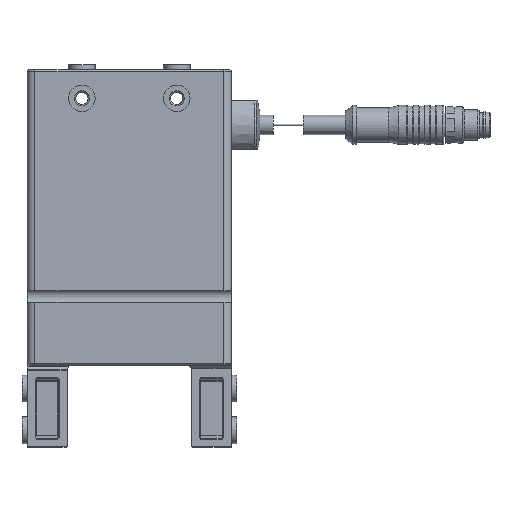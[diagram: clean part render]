
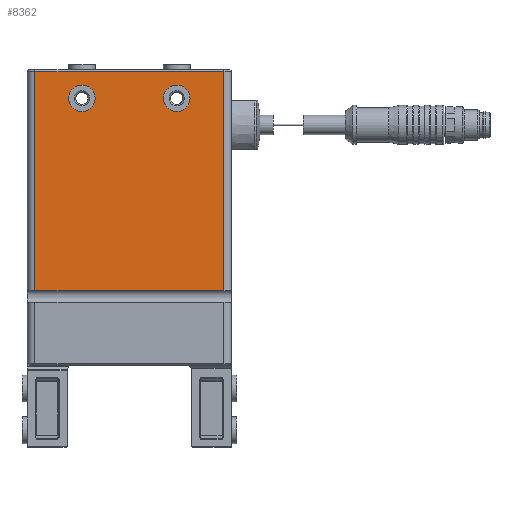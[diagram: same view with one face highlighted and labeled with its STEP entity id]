
A CAD part, top view. The second image highlights one B-rep face of the part: STEP entity #8362.
In plain terms, the highlighted planar face has unit normal (0, 0, 1) as drawn and (0, 0, -1) by its records, which use the part's own axes.
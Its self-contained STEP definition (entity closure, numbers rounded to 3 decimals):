
#1017=LINE('',#15135,#1821);
#1020=LINE('',#15158,#1824);
#1024=LINE('',#15188,#1828);
#1025=LINE('',#15189,#1829);
#1821=VECTOR('',#12450,1000.);
#1824=VECTOR('',#12469,1000.);
#1828=VECTOR('',#12489,1000.);
#1829=VECTOR('',#12490,1000.);
#3701=ORIENTED_EDGE('',*,*,#5139,.F.);
#3702=ORIENTED_EDGE('',*,*,#5140,.F.);
#3703=ORIENTED_EDGE('',*,*,#5141,.F.);
#3704=ORIENTED_EDGE('',*,*,#5129,.T.);
#3705=ORIENTED_EDGE('',*,*,#5142,.T.);
#3706=ORIENTED_EDGE('',*,*,#5119,.F.);
#5119=EDGE_CURVE('',#5973,#5974,#1017,.T.);
#5129=EDGE_CURVE('',#5982,#5981,#1020,.T.);
#5139=EDGE_CURVE('',#5990,#5990,#6254,.T.);
#5140=EDGE_CURVE('',#5991,#5991,#6255,.T.);
#5141=EDGE_CURVE('',#5982,#5973,#1024,.T.);
#5142=EDGE_CURVE('',#5981,#5974,#1025,.T.);
#5973=VERTEX_POINT('',#15134);
#5974=VERTEX_POINT('',#15136);
#5981=VERTEX_POINT('',#15157);
#5982=VERTEX_POINT('',#15159);
#5990=VERTEX_POINT('',#15185);
#5991=VERTEX_POINT('',#15187);
#6254=CIRCLE('',#10399,3.5);
#6255=CIRCLE('',#10400,3.5);
#6820=EDGE_LOOP('',(#3701));
#6821=EDGE_LOOP('',(#3702));
#6822=EDGE_LOOP('',(#3703,#3704,#3705,#3706));
#7479=FACE_BOUND('',#6820,.T.);
#7480=FACE_BOUND('',#6821,.T.);
#7481=FACE_BOUND('',#6822,.T.);
#7926=PLANE('',#10398);
#8362=ADVANCED_FACE('',(#7479,#7480,#7481),#7926,.F.);
#10398=AXIS2_PLACEMENT_3D('',#15183,#12483,#12484);
#10399=AXIS2_PLACEMENT_3D('',#15184,#12485,#12486);
#10400=AXIS2_PLACEMENT_3D('',#15186,#12487,#12488);
#12450=DIRECTION('',(0.,-1.,0.));
#12469=DIRECTION('',(0.,-1.,0.));
#12483=DIRECTION('',(0.,0.,1.));
#12484=DIRECTION('',(1.,0.,0.));
#12485=DIRECTION('',(0.,0.,-1.));
#12486=DIRECTION('',(-1.,0.,0.));
#12487=DIRECTION('',(0.,0.,-1.));
#12488=DIRECTION('',(-1.,0.,0.));
#12489=DIRECTION('',(-1.,0.,0.));
#12490=DIRECTION('',(-1.,0.,0.));
#15134=CARTESIAN_POINT('',(-24.9,58.25,-13.));
#15135=CARTESIAN_POINT('',(-24.9,78.,-13.));
#15136=CARTESIAN_POINT('',(-24.9,0.5,-13.));
#15157=CARTESIAN_POINT('',(24.9,0.5,-13.));
#15158=CARTESIAN_POINT('',(24.9,78.,-13.));
#15159=CARTESIAN_POINT('',(24.9,58.25,-13.));
#15183=CARTESIAN_POINT('',(24.9,78.,-13.));
#15184=CARTESIAN_POINT('',(12.5,7.5,-13.));
#15185=CARTESIAN_POINT('',(9.,7.5,-13.));
#15186=CARTESIAN_POINT('',(-12.5,7.5,-13.));
#15187=CARTESIAN_POINT('',(-16.,7.5,-13.));
#15188=CARTESIAN_POINT('',(24.9,58.25,-13.));
#15189=CARTESIAN_POINT('',(24.9,0.5,-13.));
